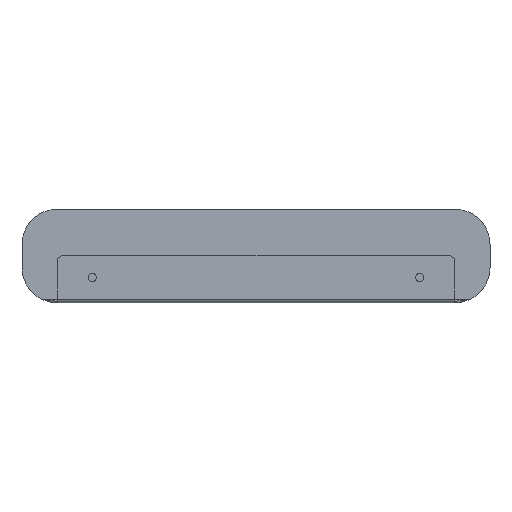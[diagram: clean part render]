
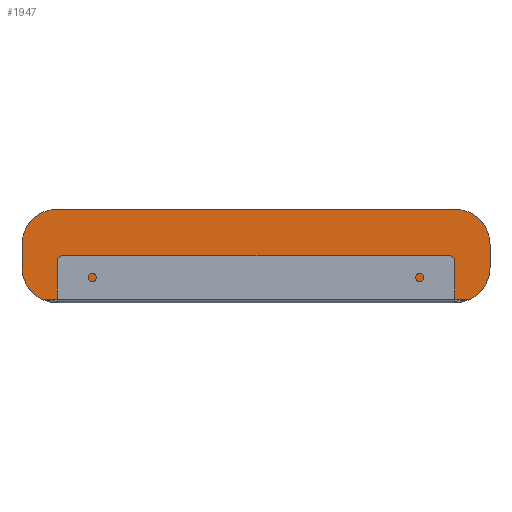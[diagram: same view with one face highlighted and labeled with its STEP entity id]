
A CAD part, top view. The second image highlights one B-rep face of the part: STEP entity #1947.
In plain terms, the highlighted planar face has unit normal (0, 0, 1).
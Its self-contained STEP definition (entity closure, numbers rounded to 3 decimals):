
#33 = ORIENTED_EDGE ( 'NONE', *, *, #1635, .F. ) ;
#41 = CARTESIAN_POINT ( 'NONE',  ( 170., 40., 0. ) ) ;
#88 = VERTEX_POINT ( 'NONE', #594 ) ;
#117 = EDGE_CURVE ( 'NONE', #1449, #88, #1110, .T. ) ;
#260 = DIRECTION ( 'NONE',  ( 0., -1., 0. ) ) ;
#264 = LINE ( 'NONE', #1543, #1282 ) ;
#269 = AXIS2_PLACEMENT_3D ( 'NONE', #882, #703, #1471 ) ;
#432 = CARTESIAN_POINT ( 'NONE',  ( 200., -37., 0. ) ) ;
#438 = DIRECTION ( 'NONE',  ( -1., 0., 0. ) ) ;
#443 = LINE ( 'NONE', #2309, #995 ) ;
#481 = VERTEX_POINT ( 'NONE', #777 ) ;
#518 = DIRECTION ( 'NONE',  ( 0., 0., -1. ) ) ;
#519 = CARTESIAN_POINT ( 'NONE',  ( -170., -10., 0. ) ) ;
#527 = VERTEX_POINT ( 'NONE', #1721 ) ;
#534 = AXIS2_PLACEMENT_3D ( 'NONE', #709, #518, #1442 ) ;
#548 = EDGE_CURVE ( 'NONE', #1143, #1663, #1375, .T. ) ;
#553 = ORIENTED_EDGE ( 'NONE', *, *, #1483, .T. ) ;
#594 = CARTESIAN_POINT ( 'NONE',  ( -170., 40., 0. ) ) ;
#645 = VECTOR ( 'NONE', #662, 1000. ) ;
#658 = ORIENTED_EDGE ( 'NONE', *, *, #548, .F. ) ;
#662 = DIRECTION ( 'NONE',  ( -1., 0., 0. ) ) ;
#676 = DIRECTION ( 'NONE',  ( -1., 0., 0. ) ) ;
#691 = EDGE_CURVE ( 'NONE', #1449, #481, #443, .T. ) ;
#699 = CIRCLE ( 'NONE', #534, 30. ) ;
#703 = DIRECTION ( 'NONE',  ( 0., 0., -1. ) ) ;
#709 = CARTESIAN_POINT ( 'NONE',  ( 170., 10., 0. ) ) ;
#756 = EDGE_LOOP ( 'NONE', ( #1954, #1966, #1324, #1299, #658, #33, #553, #1633 ) ) ;
#767 = EDGE_CURVE ( 'NONE', #1871, #88, #1935, .T. ) ;
#777 = CARTESIAN_POINT ( 'NONE',  ( -200., -10., 0. ) ) ;
#811 = DIRECTION ( 'NONE',  ( 0., 0., 1. ) ) ;
#822 = CARTESIAN_POINT ( 'NONE',  ( 0., 0., 0. ) ) ;
#878 = EDGE_CURVE ( 'NONE', #481, #1663, #2193, .T. ) ;
#882 = CARTESIAN_POINT ( 'NONE',  ( 170., -10., 0. ) ) ;
#995 = VECTOR ( 'NONE', #260, 1000. ) ;
#1032 = CARTESIAN_POINT ( 'NONE',  ( -200., 10., 0. ) ) ;
#1069 = CARTESIAN_POINT ( 'NONE',  ( 183.077, -37., 0. ) ) ;
#1110 = CIRCLE ( 'NONE', #1816, 30. ) ;
#1143 = VERTEX_POINT ( 'NONE', #1069 ) ;
#1186 = DIRECTION ( 'NONE',  ( 0., 0., -1. ) ) ;
#1206 = DIRECTION ( 'NONE',  ( 1., 0., 0. ) ) ;
#1282 = VECTOR ( 'NONE', #2326, 1000. ) ;
#1299 = ORIENTED_EDGE ( 'NONE', *, *, #878, .T. ) ;
#1324 = ORIENTED_EDGE ( 'NONE', *, *, #691, .T. ) ;
#1375 = LINE ( 'NONE', #432, #2109 ) ;
#1442 = DIRECTION ( 'NONE',  ( -1., 0., 0. ) ) ;
#1449 = VERTEX_POINT ( 'NONE', #1032 ) ;
#1471 = DIRECTION ( 'NONE',  ( -1., 0., 0. ) ) ;
#1483 = EDGE_CURVE ( 'NONE', #1793, #527, #264, .T. ) ;
#1543 = CARTESIAN_POINT ( 'NONE',  ( 200., -40., 0. ) ) ;
#1577 = CARTESIAN_POINT ( 'NONE',  ( -170., 10., 0. ) ) ;
#1594 = DIRECTION ( 'NONE',  ( 1., 0., 0. ) ) ;
#1633 = ORIENTED_EDGE ( 'NONE', *, *, #2374, .F. ) ;
#1635 = EDGE_CURVE ( 'NONE', #1793, #1143, #2120, .T. ) ;
#1663 = VERTEX_POINT ( 'NONE', #2382 ) ;
#1691 = AXIS2_PLACEMENT_3D ( 'NONE', #822, #811, #1206 ) ;
#1721 = CARTESIAN_POINT ( 'NONE',  ( 200., 10., 0. ) ) ;
#1793 = VERTEX_POINT ( 'NONE', #2098 ) ;
#1816 = AXIS2_PLACEMENT_3D ( 'NONE', #1577, #1186, #438 ) ;
#1871 = VERTEX_POINT ( 'NONE', #41 ) ;
#1935 = LINE ( 'NONE', #2333, #645 ) ;
#1938 = FACE_OUTER_BOUND ( 'NONE', #756, .T. ) ;
#1947 = ADVANCED_FACE ( 'NONE', ( #1938 ), #2144, .T. ) ;
#1954 = ORIENTED_EDGE ( 'NONE', *, *, #767, .T. ) ;
#1966 = ORIENTED_EDGE ( 'NONE', *, *, #117, .F. ) ;
#2098 = CARTESIAN_POINT ( 'NONE',  ( 200., -10., 0. ) ) ;
#2109 = VECTOR ( 'NONE', #676, 1000. ) ;
#2120 = CIRCLE ( 'NONE', #269, 30. ) ;
#2144 = PLANE ( 'NONE',  #1691 ) ;
#2193 = CIRCLE ( 'NONE', #2389, 30. ) ;
#2309 = CARTESIAN_POINT ( 'NONE',  ( -200., -40., 0. ) ) ;
#2326 = DIRECTION ( 'NONE',  ( 0., 1., 0. ) ) ;
#2333 = CARTESIAN_POINT ( 'NONE',  ( 200., 40., 0. ) ) ;
#2374 = EDGE_CURVE ( 'NONE', #1871, #527, #699, .T. ) ;
#2382 = CARTESIAN_POINT ( 'NONE',  ( -183.077, -37., 0. ) ) ;
#2389 = AXIS2_PLACEMENT_3D ( 'NONE', #519, #2393, #1594 ) ;
#2393 = DIRECTION ( 'NONE',  ( 0., 0., 1. ) ) ;
